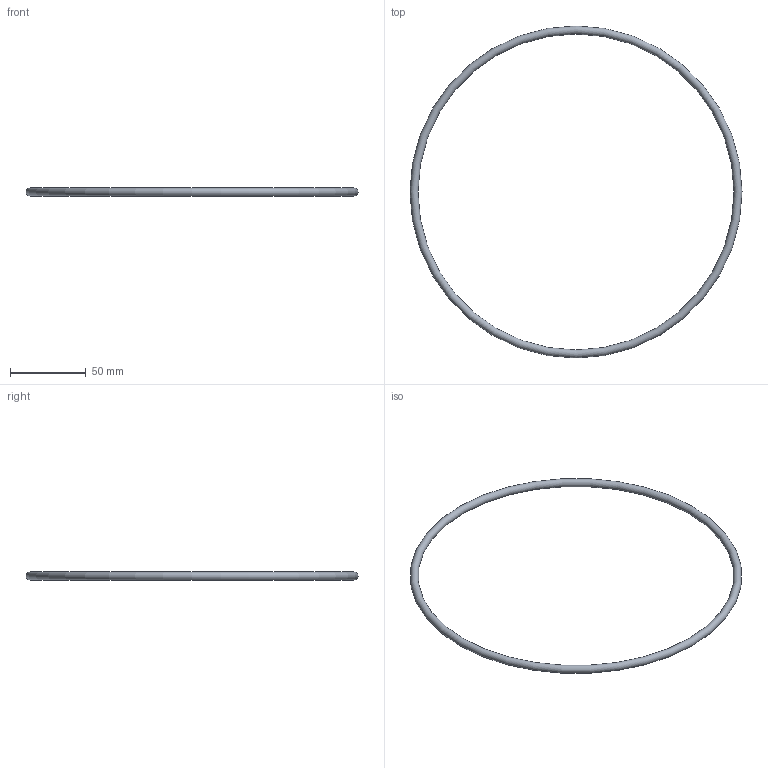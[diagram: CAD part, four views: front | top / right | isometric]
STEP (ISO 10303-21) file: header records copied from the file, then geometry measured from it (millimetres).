
FILE_DESCRIPTION( ( 'Unknown' ), '1' );
FILE_NAME( 'X:/Daten ( aktueller Bestand )/Projekte und Zeichnungen/Solid Edge/12 ISO-K Dichtungsbauteile/Alu/Ersatz-O-Ringe/6289.stp', 'Unknown', ( 'Unknown' ), ( 'Unknown' ), 'XStep 1.0', 'Unknown', ' ' );
FILE_SCHEMA( ( 'automotive_design' ) );
Length unit declared in the file: millimetre
Products named in the file (1): 1
Bounding box: 219.7 x 219.7 x 5.3 mm (x, y, z)
Volume: 14859.9 mm3; surface area: 11215 mm2
Topology: 1 solids, 1 shells, 1 faces, 2 edges, 1 vertices
Faces by surface type: torus 1
Entity records: 38 total; most frequent: DIRECTION 4, AXIS2_PLACEMENT_3D 2, DIMENSIONAL_EXPONENTS 2, CARTESIAN_POINT 2, MECHANICAL_DESIGN_GEOMETRIC_PRESENTATION_REPRESENTATION 1, PRODUCT_DEFINITION_CONTEXT 1, APPLICATION_PROTOCOL_DEFINITION 1, PRODUCT_CATEGORY_RELATIONSHIP 1
